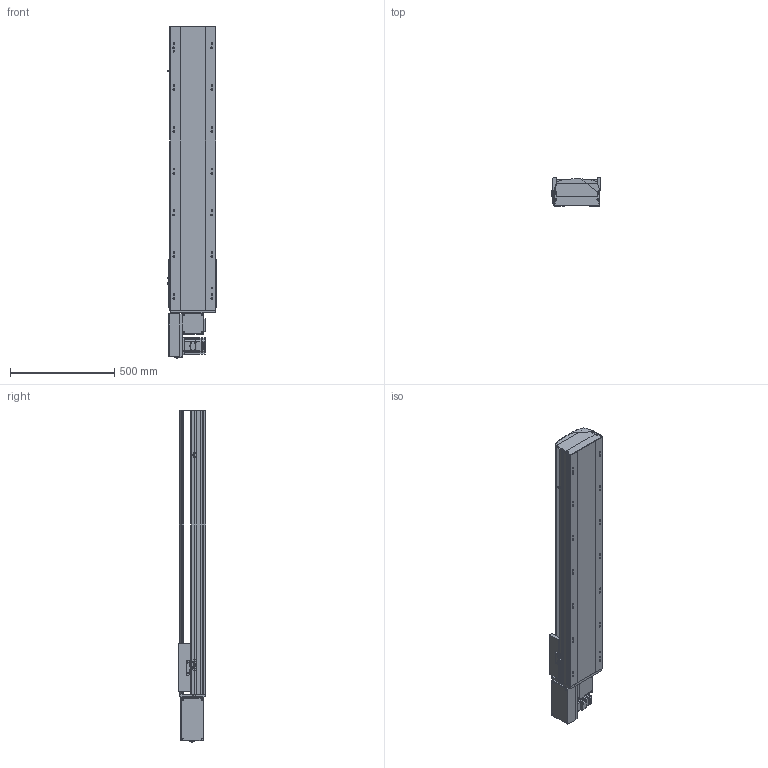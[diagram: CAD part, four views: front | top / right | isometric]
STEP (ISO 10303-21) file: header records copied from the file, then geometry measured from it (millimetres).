
FILE_DESCRIPTION (( 'STEP AP214' ), '1' );
FILE_NAME ('TPT22M-L40-1000-R-T75-C4.STEP', '2023-04-12T03:11:14', ( '' ), ( '' ), 'SwSTEP 2.0', 'SolidWorks 2020', '' );
FILE_SCHEMA (( 'AUTOMOTIVE_DESIGN' ));
Length unit declared in the file: millimetre
Products named in the file (9): TPT22M-L40-1000-R-T75-C4; 葩璃 TPT22-L-005 賑釱MZ-220-03^TPT22M-L40-R-T75-C4; 葩璃 TPT22-L-002 奻裔MZ-220-02^TPT22M-L40-R-T75-C4; 葩璃 pm-t65-672^TPT22M-L40-R-T75-C4; hexagon head bolts-full thread gb_GB_FASTENER_BOLT_STBAB A M5X16-N; 葩璃 MSMD08PC_P75^TPT22M-L40-R-T75-C4; 葩璃 TPT22-L-009 萇儂啣^TPT22M-L40-R-T75-C4; 葩璃 TPT22-L-007 々湍釱^TPT22M-L40-R-T75-C4; 葩璃 TPT22-L-001 菁釱MZ-220-01^TPT22M-L40-R-T75-C4
Assembly tree (10 placements, depth 2):
  TPT22M-L40-1000-R-T75-C4
    葩璃 TPT22-L-001 菁釱MZ-220-01^TPT22M-L40-R-T75-C4
    葩璃 TPT22-L-002 奻裔MZ-220-02^TPT22M-L40-R-T75-C4
    葩璃 TPT22-L-005 賑釱MZ-220-03^TPT22M-L40-R-T75-C4
    葩璃 TPT22-L-007 々湍釱^TPT22M-L40-R-T75-C4
    葩璃 TPT22-L-009 萇儂啣^TPT22M-L40-R-T75-C4
    葩璃 pm-t65-672^TPT22M-L40-R-T75-C4  x3
    葩璃 MSMD08PC_P75^TPT22M-L40-R-T75-C4
    hexagon head bolts-full thread gb_GB_FASTENER_BOLT_STBAB A M5X16-N
Bounding box: 238.7 x 134 x 1589.65 mm (x, y, z)
Volume: 20584834.2 mm3; surface area: 2219848.2 mm2
Topology: 17 solids, 17 shells, 1763 faces, 4661 edges, 2985 vertices
Faces by surface type: plane 977, cylinder 644, cone 120, bspline 22
Entity records: 50507 total; most frequent: CARTESIAN_POINT 10301, DIRECTION 8120, ORIENTED_EDGE 7866, EDGE_CURVE 3933, AXIS2_PLACEMENT_3D 2775, VECTOR 2570, LINE 2570, VERTEX_POINT 2557
